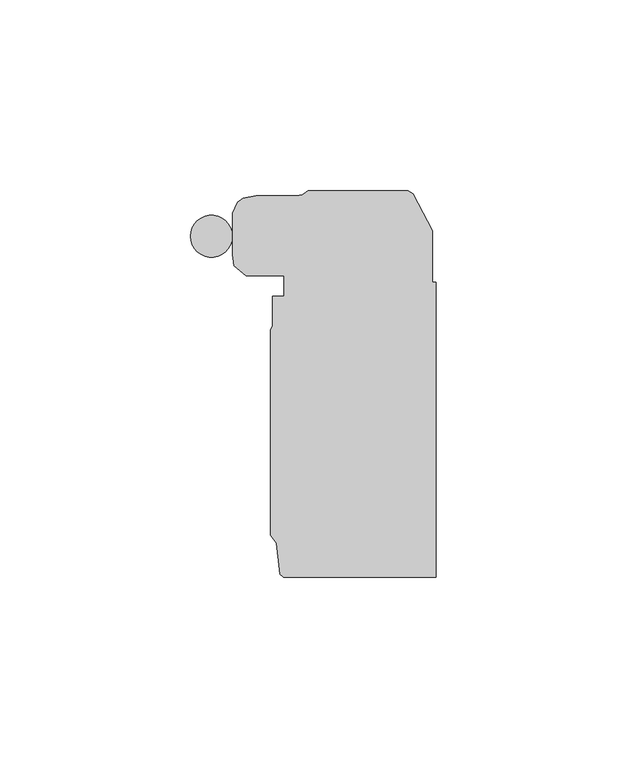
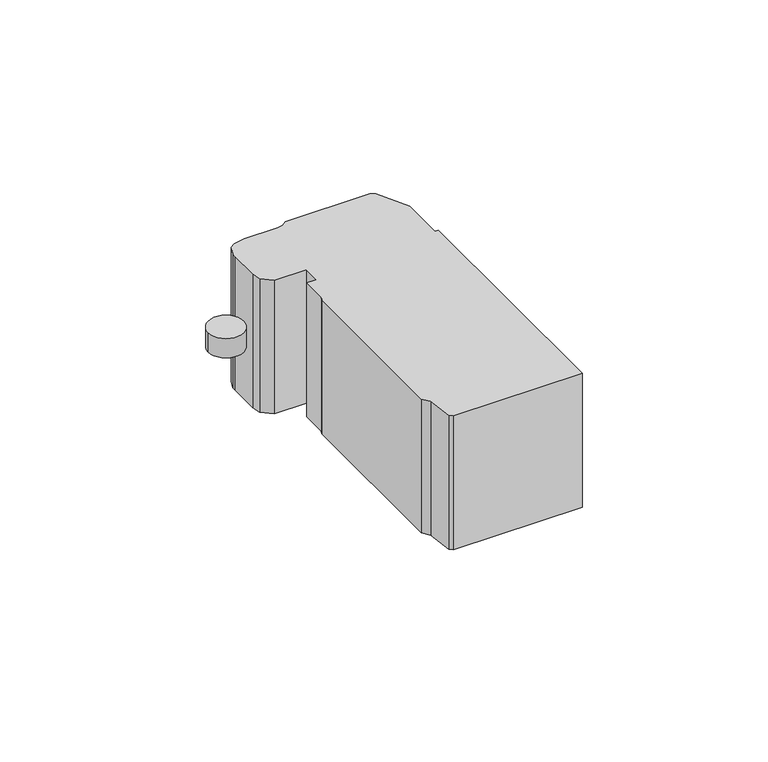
"""IFC4 building model written with IfcOpenShell, lengths in millimetres: proxy geometry, OMAHA - Limit Switch Switch : OMAHA-LIMIT SWITCH."""

from ifc_helpers import new_model, si_unit, point, frame, frame_2d, origin, place, context, project, spatial, polyline, circle_curve, trimmed, segment, composite_curve, outline, extrude, source, transform, mapped, element, save


def electrical_fixtures_d2c185ba(model_context):
    return source(origin(), model_context, "Body", "SweptSolid", [
        extrude(outline(composite_curve([segment(trimmed(circle_curve(frame_2d((33.69575, 40.2694547)), 5.5), [point((28.19575, 40.2694547))], [point((39.19575, 40.2694547))], False, "CARTESIAN"), True, "CONTINUOUS"), segment(trimmed(circle_curve(frame_2d((33.69575, 40.2694547)), 5.5), [point((39.19575, 40.2694547))], [point((28.19575, 40.2694547))], False, "CARTESIAN"), True, "CONTINUOUS")], self_intersect=False)), frame((0.0, 0.0, -2.778125), z_axis=(0.0, 0.0, 1.0), x_axis=(1.0, 0.0, 0.0)), (0.0, 0.0, 1.0), 6.35),
        extrude(outline(polyline([(92.7145, 28.2694547), (92.7145, -49.2305423), (52.6054363, -49.2305423), (51.7212263, -48.3463323), (50.7831496, -40.2992928), (49.2145, -38.1093448), (49.2145, 15.6346572), (49.7145, 16.7438209), (49.7145, 24.5863645), (52.7145, 24.5863645), (52.7145, 29.9622646), (42.8394006, 29.9622646), (39.7191362, 32.5804773), (39.2409369, 35.4496732), (39.2409369, 45.0508792), (39.2409369, 46.2828539), (40.5362248, 49.1562267), (42.0645904, 50.2836378), (45.4772078, 50.8524074), (55.9174554, 50.8524074), (57.6697393, 51.1444547), (59.122108, 52.2694547), (85.3069072, 52.2694547), (86.6435534, 51.4501726), (91.7145, 41.7694547), (91.7145, 28.2694547), (92.7145, 28.2694547)])), frame((0.0, 0.0, -21.971), z_axis=(0.0, 0.0, 1.0), x_axis=(1.0, 0.0, 0.0)), (0.0, 0.0, 1.0), 43.942),
    ])


if __name__ == "__main__":
    model = new_model("IFC4")
    model_context = context("Model", 3, world=origin())
    ifc_project = project(units=[si_unit("LENGTHUNIT", "METRE", prefix="MILLI")], contexts=[model_context])
    site = spatial("IfcSite", under=ifc_project)
    building = spatial("IfcBuilding", under=site)
    placement = place(None, origin())
    electrical_fixtures_shape = electrical_fixtures_d2c185ba(model_context)
    element("IfcBuildingElementProxy", 1, Name="OMAHA - Limit Switch Switch : OMAHA-LIMIT SWITCH", ObjectType="OMAHA - Limit Switch Switch : OMAHA-LIMIT SWITCH", at=placement, inside=building, context=model_context, shape_type="MappedRepresentation", body=[
        mapped(electrical_fixtures_shape, transform((0.0, 0.0, 0.0), x_axis=(1.0, 0.0, 0.0), y_axis=(0.0, 1.0, 0.0), z_axis=(0.0, 0.0, 1.0))),
    ])
    save(model, "model.ifc")
